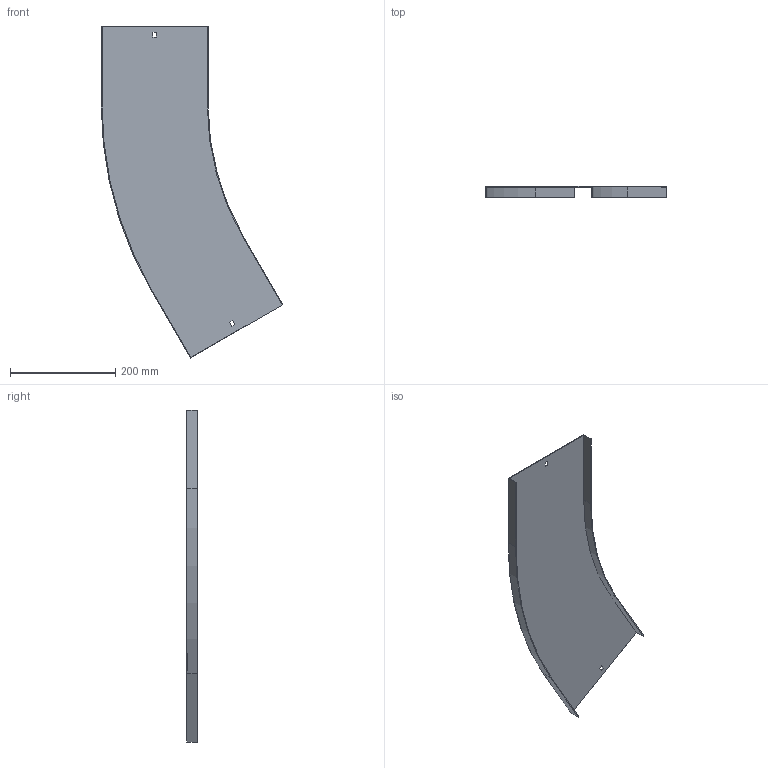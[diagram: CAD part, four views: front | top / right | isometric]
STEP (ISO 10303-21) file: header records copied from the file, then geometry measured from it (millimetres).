
FILE_DESCRIPTION (( 'STEP AP214' ), '1' );
FILE_NAME ('12N5R200.step', '2025-02-21T14:26:05', ( '' ), ( '' ), 'SwSTEP 2.0', 'SolidWorks 2023', '' );
FILE_SCHEMA (( 'AUTOMOTIVE_DESIGN' ));
Length unit declared in the file: millimetre
Products named in the file (1): 12N5R200
Bounding box: 344.79 x 20 x 630.65 mm (x, y, z)
Volume: 220921.8 mm3; surface area: 297217.9 mm2
Topology: 1 solids, 1 shells, 26 faces, 72 edges, 48 vertices
Faces by surface type: plane 22, cylinder 4
Entity records: 855 total; most frequent: CARTESIAN_POINT 147, ORIENTED_EDGE 144, DIRECTION 134, EDGE_CURVE 72, VECTOR 64, LINE 64, VERTEX_POINT 48, AXIS2_PLACEMENT_3D 35
